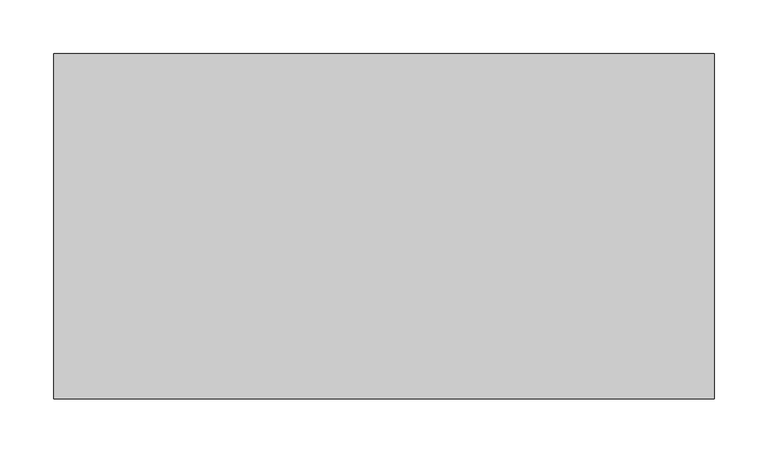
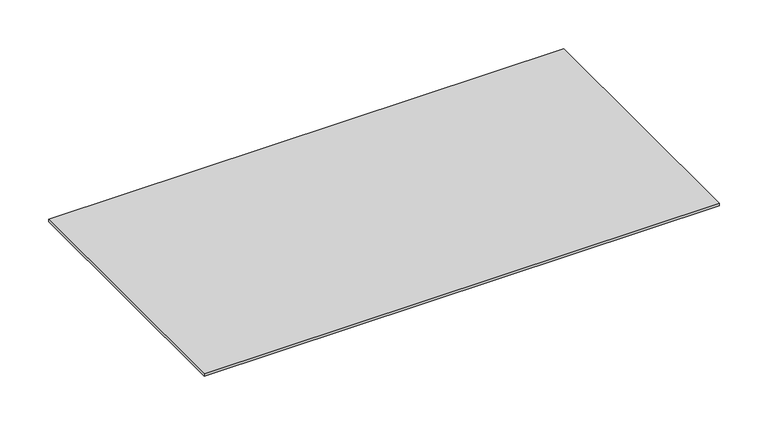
"""IFC4 building model written with IfcOpenShell, lengths in millimetres: proxy geometry, Electrical_Installation_Hager_Blank-Cover-BKA : Electrical_Installation_Hager_Blank-Cover-BKA."""

import ifcopenshell
import ifcopenshell.guid

model = None  # the IFC model being written
_history = None  # IfcOwnerHistory: only IFC2X3 demands one
_inside = {}  # id of a spatial element -> (the spatial element, [elements in it])
_under = {}  # id of a project, library or spatial element -> (it, [spatial elements below it])
_declared = {}  # id of a project -> (the project, [libraries it declares])
_typed = {}  # id of a type object -> (the type object, [elements of that type])
_made_of = {}  # id of a material, layer set ... -> (it, [elements and type objects made of it])


def new_model(schema):
    """Start an empty IFC model of exactly this schema.

    Asked for "IFC4X3", IfcOpenShell would pick the latest addendum, in which some entities
    have other attributes; the version numbers below select the first issue.
    IFC2X3 requires an IfcOwnerHistory on every rooted entity: one is made here for all.
    """
    global model, _history
    if schema == "IFC4X3":
        model = ifcopenshell.file(schema_version=(4, 3, 0, 0))
    else:
        model = ifcopenshell.file(schema=schema)
    _inside.clear()
    _under.clear()
    _declared.clear()
    _typed.clear()
    _made_of.clear()
    _history = None
    if model.schema == "IFC2X3":
        org = make("IfcOrganization", Name="unknown")
        user = make(
            "IfcPersonAndOrganization",
            ThePerson=make("IfcPerson", FamilyName="unknown"),
            TheOrganization=org,
        )
        app = make(
            "IfcApplication",
            ApplicationDeveloper=org,
            Version="unknown",
            ApplicationFullName="unknown",
            ApplicationIdentifier="unknown",
        )
        _history = make(
            "IfcOwnerHistory",
            OwningUser=user,
            OwningApplication=app,
            ChangeAction="ADDED",
            CreationDate=0,
        )
    return model


def make(cls, **values):
    """One entity of the class cls with the attributes given. An attribute that is None is left unset."""
    return model.create_entity(
        cls, **{name: value for name, value in values.items() if value is not None}
    )


def rooted(cls, **values):
    """An entity with a GlobalId (a new one), such as an element, a storey or a relation."""
    return make(cls, GlobalId=ifcopenshell.guid.new(), OwnerHistory=_history, **values)


def si_unit(unit_type, name, prefix=None):
    """IfcSIUnit, for example si_unit("LENGTHUNIT", "METRE", prefix="MILLI")."""
    return make("IfcSIUnit", UnitType=unit_type, Prefix=prefix, Name=name)


def assignment(units):
    """IfcUnitAssignment: the units of a project."""
    return None if units is None else make("IfcUnitAssignment", Units=units)


def point(xyz):
    """IfcCartesianPoint."""
    return None if xyz is None else make("IfcCartesianPoint", Coordinates=xyz)


def direction(xyz):
    """IfcDirection."""
    return None if xyz is None else make("IfcDirection", DirectionRatios=xyz)


def frame(location, z_axis=None, x_axis=None):
    """IfcAxis2Placement3D, a coordinate frame: its origin and axes. An axis left out is left unset."""
    return make(
        "IfcAxis2Placement3D",
        Location=point(location),
        Axis=direction(z_axis),
        RefDirection=direction(x_axis),
    )


def origin():
    """The frame at (0, 0, 0) with its axes left unset."""
    return frame((0.0, 0.0, 0.0))


def place(relative_to, where):
    """IfcLocalPlacement: puts the frame where relative to a parent placement (None: the world)."""
    return make(
        "IfcLocalPlacement", PlacementRelTo=relative_to, RelativePlacement=where
    )


def context(
    kind, dimensions, precision=None, world=None, true_north=None, identifier=None
):
    """IfcGeometricRepresentationContext, for example the 3D "Model" context."""
    return make(
        "IfcGeometricRepresentationContext",
        ContextIdentifier=identifier,
        ContextType=kind,
        CoordinateSpaceDimension=dimensions,
        Precision=precision,
        WorldCoordinateSystem=world,
        TrueNorth=true_north,
    )


def project(units=None, contexts=None):
    """IfcProject with its units and contexts."""
    return rooted(
        "IfcProject",
        Name="project",
        RepresentationContexts=contexts,
        UnitsInContext=assignment(units),
    )


def spatial(cls, under=None, at=None, **own):
    """A site, building, storey or space (cls), placed at a placement, below another one or the project."""
    s = rooted(cls, ObjectPlacement=at, **own)
    if under is not None:
        _under.setdefault(under.id(), (under, []))[1].append(s)
    return s


def polyline(points):
    """IfcPolyline through the points."""
    return make("IfcPolyline", Points=[point(p) for p in points])


def outline(outer, holes=None, kind="AREA"):
    """IfcArbitraryClosedProfileDef: a profile drawn as a closed curve; with holes, ...WithVoids."""
    if holes is None:
        return make("IfcArbitraryClosedProfileDef", ProfileType=kind, OuterCurve=outer)
    return make(
        "IfcArbitraryProfileDefWithVoids",
        ProfileType=kind,
        OuterCurve=outer,
        InnerCurves=holes,
    )


def extrude(swept, where, along, depth):
    """IfcExtrudedAreaSolid: the profile swept, set in the frame where, extruded along a direction by depth."""
    return make(
        "IfcExtrudedAreaSolid",
        SweptArea=swept,
        Position=where,
        ExtrudedDirection=direction(along),
        Depth=depth,
    )


def shape(context_of_items, identifier, shape_type, items):
    """IfcShapeRepresentation: the items that make up one representation, for example the "Body"."""
    return make(
        "IfcShapeRepresentation",
        ContextOfItems=context_of_items,
        RepresentationIdentifier=identifier,
        RepresentationType=shape_type,
        Items=items,
    )


def source(mapping_origin, context_of_items, identifier, shape_type, items):
    """IfcRepresentationMap: a shape defined once, which mapped items show again and again."""
    return make(
        "IfcRepresentationMap",
        MappingOrigin=mapping_origin,
        MappedRepresentation=shape(context_of_items, identifier, shape_type, items),
    )


def transform(
    local_origin,
    x_axis=None,
    y_axis=None,
    z_axis=None,
    scale=None,
    scale2=None,
    scale3=None,
    uniform=True,
):
    """IfcCartesianTransformationOperator3D, or its non-uniform kind. x_axis, y_axis, z_axis: its Axis1, 2, 3."""
    if uniform:
        return make(
            "IfcCartesianTransformationOperator3D",
            Axis1=direction(x_axis),
            Axis2=direction(y_axis),
            LocalOrigin=point(local_origin),
            Scale=scale,
            Axis3=direction(z_axis),
        )
    return make(
        "IfcCartesianTransformationOperator3DnonUniform",
        Axis1=direction(x_axis),
        Axis2=direction(y_axis),
        LocalOrigin=point(local_origin),
        Scale=scale,
        Axis3=direction(z_axis),
        Scale2=scale2,
        Scale3=scale3,
    )


def mapped(mapping_source, mapping_target):
    """IfcMappedItem: shows the shape of a source again, moved by a transform."""
    return make(
        "IfcMappedItem", MappingSource=mapping_source, MappingTarget=mapping_target
    )


def made_of(thing, what):
    """Note that an element or type object is made of a material, layer set ...; save() writes the relation."""
    if what is not None:
        _made_of.setdefault(what.id(), (what, []))[1].append(thing)
    return thing


def element(
    cls,
    number,
    at=None,
    inside=None,
    cuts=None,
    type_object=None,
    material=None,
    context=None,
    identifier="Body",
    shape_type=None,
    held_by="IfcProductDefinitionShape",
    body=None,
    shapes=None,
    **own,
):
    """One element of the class cls, such as IfcWall. Its Tag is "e" and its number.

    at: its placement. inside: the storey or other place that contains it. cuts: it is an
    opening in that element (IfcRelVoidsElement). A single representation is given by context,
    identifier, shape_type and body (its items); several are given by shapes. held_by: the class
    of the entity that holds the representations. save() writes the other relations.
    """
    e = rooted(cls, Tag="e%d" % number, ObjectPlacement=at, **own)
    if body is not None:
        shapes = [shape(context, identifier, shape_type, body)]
    if shapes is not None:
        e.Representation = make(held_by, Representations=shapes)
    if inside is not None:
        _inside.setdefault(inside.id(), (inside, []))[1].append(e)
    if cuts is not None:
        rooted(
            "IfcRelVoidsElement", RelatingBuildingElement=cuts, RelatedOpeningElement=e
        )
    if type_object is not None:
        _typed.setdefault(type_object.id(), (type_object, []))[1].append(e)
    return made_of(e, material)


def aggregate(whole, parts):
    """IfcRelAggregates: a whole, such as a stair, and the parts it consists of."""
    return rooted("IfcRelAggregates", RelatingObject=whole, RelatedObjects=parts)


def save(model, path):
    """Write the relations noted so far, then the file.

    IfcRelAggregates (storeys below a building ...), IfcRelContainedInSpatialStructure (elements
    in a storey), IfcRelDefinesByType, IfcRelAssociatesMaterial and IfcRelDeclares: one each for
    every whole, place, type object, material and project.
    """
    for whole, parts in _under.values():
        aggregate(whole, parts)
    for where, things in _inside.values():
        rooted(
            "IfcRelContainedInSpatialStructure",
            RelatedElements=things,
            RelatingStructure=where,
        )
    for kind, things in _typed.values():
        rooted("IfcRelDefinesByType", RelatedObjects=things, RelatingType=kind)
    for what, things in _made_of.values():
        rooted("IfcRelAssociatesMaterial", RelatedObjects=things, RelatingMaterial=what)
    for by, libraries in _declared.values():
        rooted("IfcRelDeclares", RelatingContext=by, RelatedDefinitions=libraries)
    model.write(path)


def electrical_fixtures_2640dee4(model_context):
    return source(origin(), model_context, "Body", "SweptSolid", [
        extrude(outline(polyline([(611.14631, 159.75), (611.14631, -159.75), (0.0, -159.75), (0.0, 159.75), (611.14631, 159.75)])), frame((0.0, 0.0, 10.0), z_axis=(0.0, 0.0, 1.0), x_axis=(1.0, 0.0, 0.0)), (0.0, 0.0, 1.0), 3.0),
    ])


if __name__ == "__main__":
    model = new_model("IFC4")
    model_context = context("Model", 3, world=origin())
    ifc_project = project(units=[si_unit("LENGTHUNIT", "METRE", prefix="MILLI")], contexts=[model_context])
    site = spatial("IfcSite", under=ifc_project)
    building = spatial("IfcBuilding", under=site)
    placement = place(None, origin())
    electrical_fixtures_shape = electrical_fixtures_2640dee4(model_context)
    element("IfcBuildingElementProxy", 1, Name="Electrical_Installation_Hager_Blank-Cover-BKA : Electrical_Installation_Hager_Blank-Cover-BKA", ObjectType="Electrical_Installation_Hager_Blank-Cover-BKA : Electrical_Installation_Hager_Blank-Cover-BKA", at=placement, inside=building, context=model_context, shape_type="MappedRepresentation", body=[
        mapped(electrical_fixtures_shape, transform((0.0, 0.0, 0.0), x_axis=(1.0, 0.0, 0.0), y_axis=(0.0, 1.0, 0.0), z_axis=(0.0, 0.0, 1.0))),
    ])
    save(model, "model.ifc")
